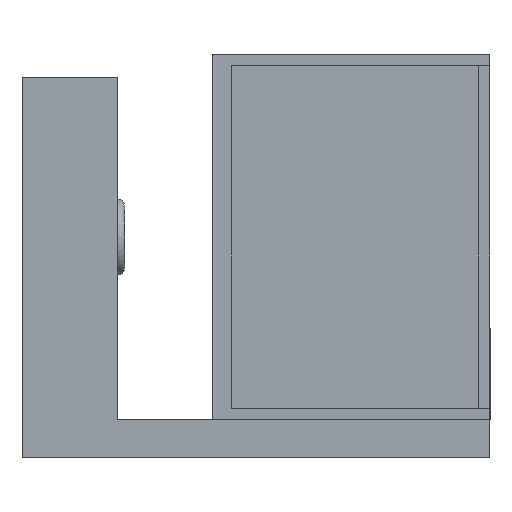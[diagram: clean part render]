
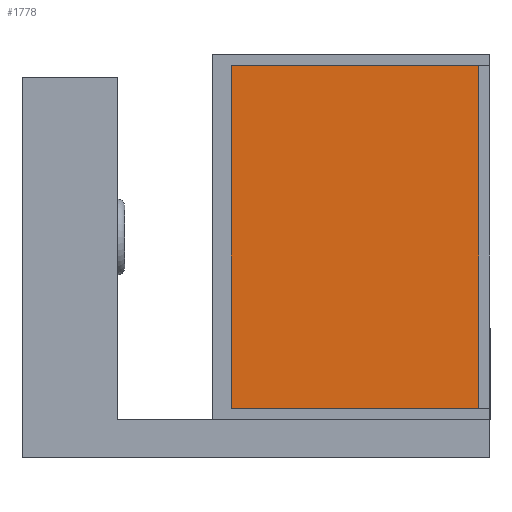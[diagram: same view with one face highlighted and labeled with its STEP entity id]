
A CAD part, left-side view. The second image highlights one B-rep face of the part: STEP entity #1778.
In plain terms, the highlighted planar face has unit normal (-1, 0, 0).
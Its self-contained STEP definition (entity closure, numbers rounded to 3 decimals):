
#188=FACE_OUTER_BOUND('',#291,.T.);
#291=EDGE_LOOP('',(#1573,#1574,#1575,#1576));
#501=LINE('',#2914,#724);
#507=LINE('',#2925,#730);
#513=LINE('',#2936,#736);
#514=LINE('',#2938,#737);
#724=VECTOR('',#2407,10.);
#730=VECTOR('',#2417,10.);
#736=VECTOR('',#2427,10.);
#737=VECTOR('',#2430,10.);
#888=VERTEX_POINT('',#2910);
#889=VERTEX_POINT('',#2912);
#892=VERTEX_POINT('',#2924);
#895=VERTEX_POINT('',#2934);
#1112=EDGE_CURVE('',#888,#889,#501,.T.);
#1118=EDGE_CURVE('',#888,#892,#507,.T.);
#1124=EDGE_CURVE('',#889,#895,#513,.T.);
#1125=EDGE_CURVE('',#892,#895,#514,.T.);
#1573=ORIENTED_EDGE('',*,*,#1112,.T.);
#1574=ORIENTED_EDGE('',*,*,#1124,.T.);
#1575=ORIENTED_EDGE('',*,*,#1125,.F.);
#1576=ORIENTED_EDGE('',*,*,#1118,.F.);
#1683=PLANE('',#1972);
#1778=ADVANCED_FACE('',(#188),#1683,.T.);
#1972=AXIS2_PLACEMENT_3D('',#2937,#2428,#2429);
#2407=DIRECTION('',(0.,0.,1.));
#2417=DIRECTION('',(0.,1.,0.));
#2427=DIRECTION('',(0.,1.,0.));
#2428=DIRECTION('center_axis',(-1.,0.,0.));
#2429=DIRECTION('ref_axis',(0.,0.,1.));
#2430=DIRECTION('',(0.,0.,1.));
#2910=CARTESIAN_POINT('',(32.5,0.,-45.));
#2912=CARTESIAN_POINT('',(32.5,0.,45.));
#2914=CARTESIAN_POINT('',(32.5,0.,45.));
#2924=CARTESIAN_POINT('',(32.5,70.,-45.));
#2925=CARTESIAN_POINT('',(32.5,0.,-45.));
#2934=CARTESIAN_POINT('',(32.5,70.,45.));
#2936=CARTESIAN_POINT('',(32.5,0.,45.));
#2937=CARTESIAN_POINT('Origin',(32.5,0.,-45.));
#2938=CARTESIAN_POINT('',(32.5,70.,45.));
